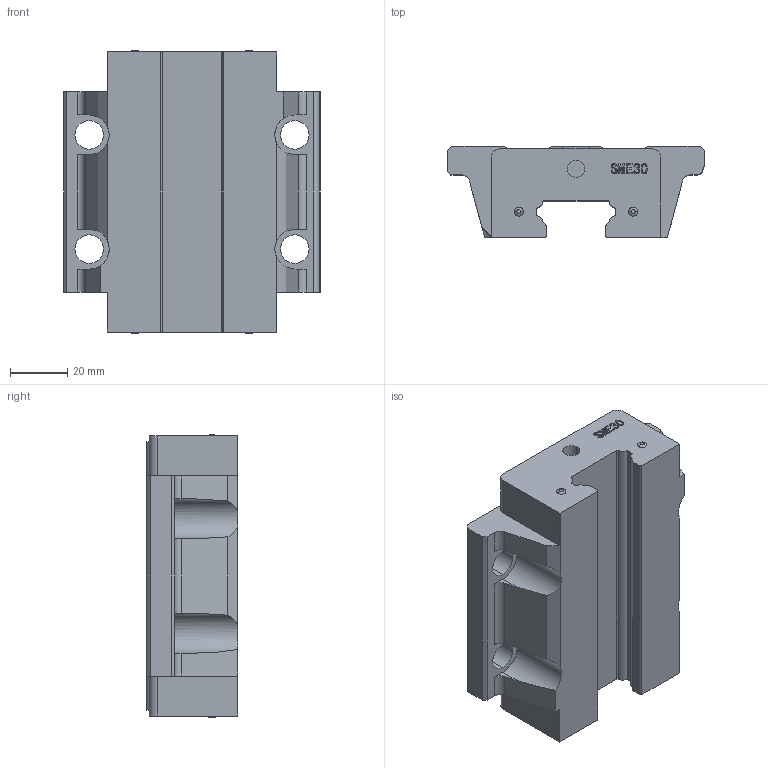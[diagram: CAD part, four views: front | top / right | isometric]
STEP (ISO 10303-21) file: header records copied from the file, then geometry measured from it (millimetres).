
FILE_DESCRIPTION (( 'STEP AP203' ), '1' );
FILE_NAME ('SME30A.stp', '2019-09-20T10:12:55', ( 'pgos' ), ( '' ), 'SwSTEP 2.0', 'SolidWorks 2014', '' );
FILE_SCHEMA (( 'CONFIG_CONTROL_DESIGN' ));
Length unit declared in the file: millimetre
Products named in the file (1): SME30A
Bounding box: 90 x 32 x 99.1 mm (x, y, z)
Volume: 180736 mm3; surface area: 30279.7 mm2
Topology: 1 solids, 1 shells, 191 faces, 538 edges, 364 vertices
Faces by surface type: plane 115, cylinder 48, bspline 20, torus 8
Entity records: 8273 total; most frequent: CARTESIAN_POINT 3276, ORIENTED_EDGE 1076, DIRECTION 948, EDGE_CURVE 538, VERTEX_POINT 364, VECTOR 364, LINE 364, AXIS2_PLACEMENT_3D 292
